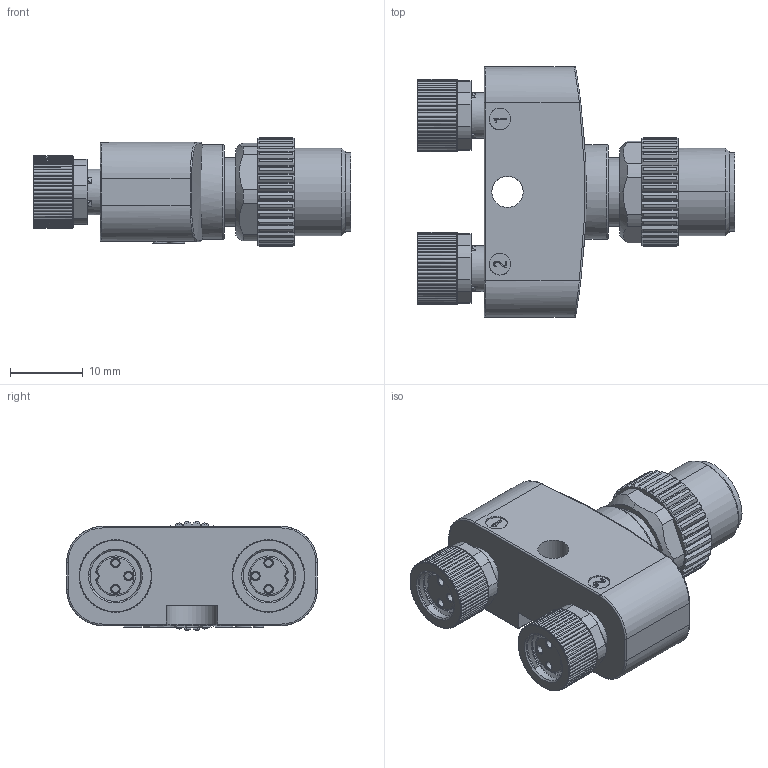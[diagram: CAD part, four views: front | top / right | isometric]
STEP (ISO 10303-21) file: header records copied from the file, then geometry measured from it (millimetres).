
FILE_DESCRIPTION(/* description */ (''),/* implementation_level */ '2;1');
FILE_NAME(/* name */ 'M12-2M8-Y.stp',/* time_stamp */ '2018-07-26T09:49:38+08:00',/* author */ (''),/* organization */ (''),/* preprocessor_version */ 'ST-DEVELOPER v16',/* originating_system */ 'SIEMENS PLM Software NX 10.0',/* authorisation */ '');
FILE_SCHEMA (('AP203_CONFIGURATION_CONTROLLED_3D_DESIGN_OF_MECHANICAL_PARTS_AND_ASSEMBLIES_MIM_LF { 1 0 10303 403 2 1 2}'));
Products named in the file (1): 91470FB84CB5g8sk
Bounding box: 43.6 x 34.4 x 14.98 mm (x, y, z)
Volume: 9425.8 mm3; surface area: 8363.1 mm2
Topology: 2 solids, 18 shells, 1575 faces, 3818 edges, 2346 vertices
Faces by surface type: cylinder 546, plane 439, cone 389, extrusion 139, bspline 27, torus 25, sphere 10
Full cylindrical faces by diameter (mm): 0.9 x6, 1 x17, 1.1 x6, 1.4 x18, 1.5 x6, 1.7 x6, 2 x5, 2.1 x15, 4.3 x1, 6.3 x2, 9.4 x1, 9.8 x1, 10.8 x1, 13 x1
Entity records: 56730 total; most frequent: CARTESIAN_POINT 21317, ORIENTED_EDGE 7298, DIRECTION 7117, EDGE_CURVE 3651, AXIS2_PLACEMENT_3D 2770, VERTEX_POINT 2308, EDGE_LOOP 1823, VECTOR 1577
